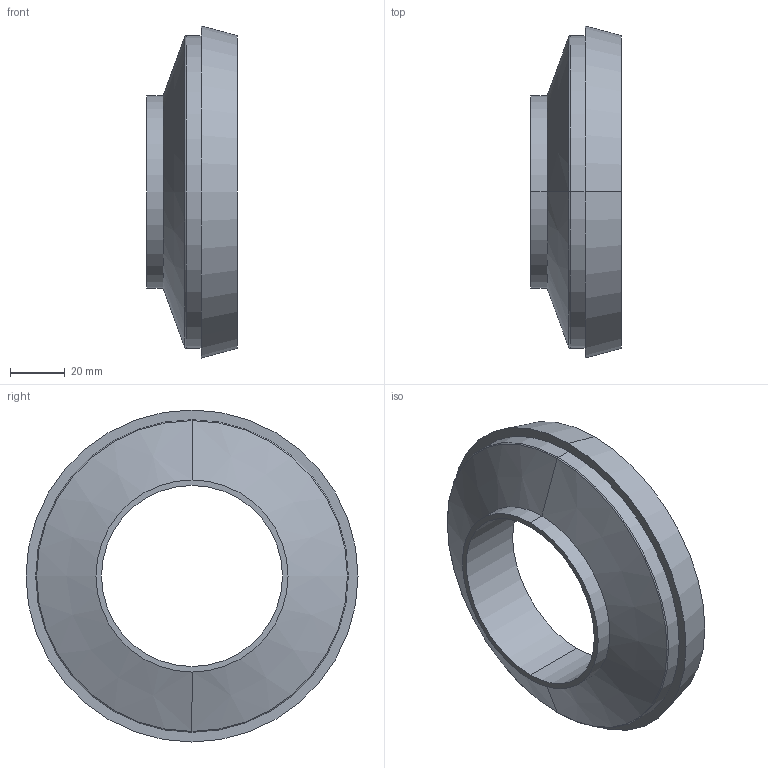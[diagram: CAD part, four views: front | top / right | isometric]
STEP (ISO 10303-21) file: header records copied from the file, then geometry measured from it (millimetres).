
FILE_DESCRIPTION (( 'STEP AP203' ), '1' );
FILE_NAME ('3D-M2024P_100-65_174211180.STEP', '2024-09-06T10:06:31', ( '' ), ( '' ), 'SwSTEP 2.0', 'SolidWorks 2024', '' );
FILE_SCHEMA (( 'CONFIG_CONTROL_DESIGN' ));
Length unit declared in the file: millimetre
Products named in the file (1): 3D-M2024P_100-65_174211180
Bounding box: 33 x 121 x 121 mm (x, y, z)
Volume: 147751.6 mm3; surface area: 29215.9 mm2
Topology: 1 solids, 1 shells, 17 faces, 34 edges, 20 vertices
Faces by surface type: cone 6, cylinder 6, plane 3, torus 2
Entity records: 527 total; most frequent: DIRECTION 92, CARTESIAN_POINT 72, ORIENTED_EDGE 68, AXIS2_PLACEMENT_3D 40, EDGE_CURVE 34, CIRCLE 22, VERTEX_POINT 20, EDGE_LOOP 20
